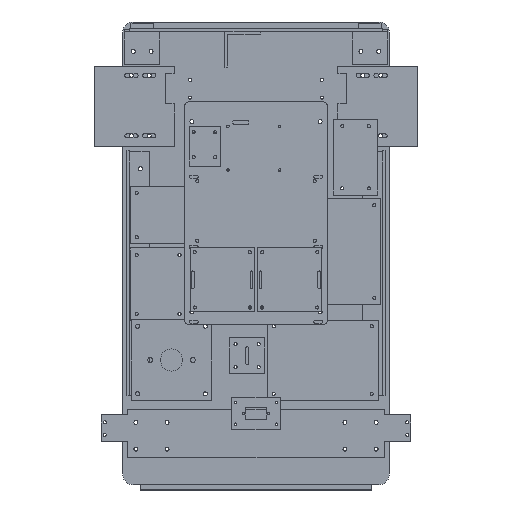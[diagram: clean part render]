
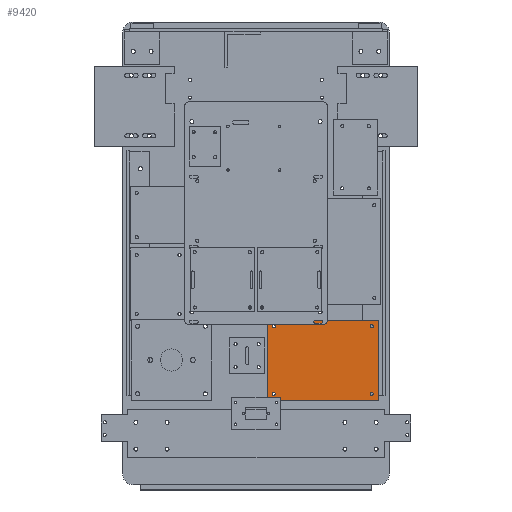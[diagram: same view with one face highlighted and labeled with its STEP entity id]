
A CAD part, top view. The second image highlights one B-rep face of the part: STEP entity #9420.
In plain terms, the highlighted planar face has unit normal (0, 0, 1).
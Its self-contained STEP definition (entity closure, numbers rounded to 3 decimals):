
#9231 = VERTEX_POINT('',#9232);
#9232 = CARTESIAN_POINT('',(12.5,95.,19.));
#9239 = PLANE('',#9240);
#9240 = AXIS2_PLACEMENT_3D('',#9241,#9242,#9243);
#9241 = CARTESIAN_POINT('',(12.5,95.,14.));
#9242 = DIRECTION('',(1.,0.,0.));
#9243 = DIRECTION('',(0.,0.,1.));
#9251 = PLANE('',#9252);
#9252 = AXIS2_PLACEMENT_3D('',#9253,#9254,#9255);
#9253 = CARTESIAN_POINT('',(12.5,95.,14.));
#9254 = DIRECTION('',(0.,1.,0.));
#9255 = DIRECTION('',(0.,0.,1.));
#9292 = VERTEX_POINT('',#9293);
#9293 = CARTESIAN_POINT('',(12.5,185.,19.));
#9307 = PLANE('',#9308);
#9308 = AXIS2_PLACEMENT_3D('',#9309,#9310,#9311);
#9309 = CARTESIAN_POINT('',(12.5,185.,14.));
#9310 = DIRECTION('',(0.,1.,0.));
#9311 = DIRECTION('',(0.,0.,1.));
#9319 = EDGE_CURVE('',#9231,#9292,#9320,.T.);
#9320 = SURFACE_CURVE('',#9321,(#9325,#9332),.PCURVE_S1.);
#9321 = LINE('',#9322,#9323);
#9322 = CARTESIAN_POINT('',(12.5,95.,19.));
#9323 = VECTOR('',#9324,1.);
#9324 = DIRECTION('',(0.,1.,0.));
#9325 = PCURVE('',#9239,#9326);
#9326 = DEFINITIONAL_REPRESENTATION('',(#9327),#9331);
#9327 = LINE('',#9328,#9329);
#9328 = CARTESIAN_POINT('',(5.,0.));
#9329 = VECTOR('',#9330,1.);
#9330 = DIRECTION('',(0.,-1.));
#9331 = ( GEOMETRIC_REPRESENTATION_CONTEXT(2) 
PARAMETRIC_REPRESENTATION_CONTEXT() REPRESENTATION_CONTEXT('2D SPACE',''
  ) );
#9332 = PCURVE('',#9333,#9338);
#9333 = PLANE('',#9334);
#9334 = AXIS2_PLACEMENT_3D('',#9335,#9336,#9337);
#9335 = CARTESIAN_POINT('',(12.5,95.,19.));
#9336 = DIRECTION('',(0.,0.,1.));
#9337 = DIRECTION('',(1.,0.,0.));
#9338 = DEFINITIONAL_REPRESENTATION('',(#9339),#9343);
#9339 = LINE('',#9340,#9341);
#9340 = CARTESIAN_POINT('',(0.,0.));
#9341 = VECTOR('',#9342,1.);
#9342 = DIRECTION('',(0.,1.));
#9343 = ( GEOMETRIC_REPRESENTATION_CONTEXT(2) 
PARAMETRIC_REPRESENTATION_CONTEXT() REPRESENTATION_CONTEXT('2D SPACE',''
  ) );
#9372 = EDGE_CURVE('',#9231,#9373,#9375,.T.);
#9373 = VERTEX_POINT('',#9374);
#9374 = CARTESIAN_POINT('',(137.5,95.,19.));
#9375 = SURFACE_CURVE('',#9376,(#9380,#9387),.PCURVE_S1.);
#9376 = LINE('',#9377,#9378);
#9377 = CARTESIAN_POINT('',(12.5,95.,19.));
#9378 = VECTOR('',#9379,1.);
#9379 = DIRECTION('',(1.,0.,0.));
#9380 = PCURVE('',#9251,#9381);
#9381 = DEFINITIONAL_REPRESENTATION('',(#9382),#9386);
#9382 = LINE('',#9383,#9384);
#9383 = CARTESIAN_POINT('',(5.,0.));
#9384 = VECTOR('',#9385,1.);
#9385 = DIRECTION('',(0.,1.));
#9386 = ( GEOMETRIC_REPRESENTATION_CONTEXT(2) 
PARAMETRIC_REPRESENTATION_CONTEXT() REPRESENTATION_CONTEXT('2D SPACE',''
  ) );
#9387 = PCURVE('',#9333,#9388);
#9388 = DEFINITIONAL_REPRESENTATION('',(#9389),#9393);
#9389 = LINE('',#9390,#9391);
#9390 = CARTESIAN_POINT('',(0.,0.));
#9391 = VECTOR('',#9392,1.);
#9392 = DIRECTION('',(1.,0.));
#9393 = ( GEOMETRIC_REPRESENTATION_CONTEXT(2) 
PARAMETRIC_REPRESENTATION_CONTEXT() REPRESENTATION_CONTEXT('2D SPACE',''
  ) );
#9409 = PLANE('',#9410);
#9410 = AXIS2_PLACEMENT_3D('',#9411,#9412,#9413);
#9411 = CARTESIAN_POINT('',(137.5,95.,14.));
#9412 = DIRECTION('',(1.,0.,0.));
#9413 = DIRECTION('',(0.,0.,1.));
#9420 = ADVANCED_FACE('',(#9421,#9469,#9500,#9531,#9562),#9333,.T.);
#9421 = FACE_BOUND('',#9422,.T.);
#9422 = EDGE_LOOP('',(#9423,#9424,#9425,#9448));
#9423 = ORIENTED_EDGE('',*,*,#9319,.F.);
#9424 = ORIENTED_EDGE('',*,*,#9372,.T.);
#9425 = ORIENTED_EDGE('',*,*,#9426,.T.);
#9426 = EDGE_CURVE('',#9373,#9427,#9429,.T.);
#9427 = VERTEX_POINT('',#9428);
#9428 = CARTESIAN_POINT('',(137.5,185.,19.));
#9429 = SURFACE_CURVE('',#9430,(#9434,#9441),.PCURVE_S1.);
#9430 = LINE('',#9431,#9432);
#9431 = CARTESIAN_POINT('',(137.5,95.,19.));
#9432 = VECTOR('',#9433,1.);
#9433 = DIRECTION('',(0.,1.,0.));
#9434 = PCURVE('',#9333,#9435);
#9435 = DEFINITIONAL_REPRESENTATION('',(#9436),#9440);
#9436 = LINE('',#9437,#9438);
#9437 = CARTESIAN_POINT('',(125.,0.));
#9438 = VECTOR('',#9439,1.);
#9439 = DIRECTION('',(0.,1.));
#9440 = ( GEOMETRIC_REPRESENTATION_CONTEXT(2) 
PARAMETRIC_REPRESENTATION_CONTEXT() REPRESENTATION_CONTEXT('2D SPACE',''
  ) );
#9441 = PCURVE('',#9409,#9442);
#9442 = DEFINITIONAL_REPRESENTATION('',(#9443),#9447);
#9443 = LINE('',#9444,#9445);
#9444 = CARTESIAN_POINT('',(5.,0.));
#9445 = VECTOR('',#9446,1.);
#9446 = DIRECTION('',(0.,-1.));
#9447 = ( GEOMETRIC_REPRESENTATION_CONTEXT(2) 
PARAMETRIC_REPRESENTATION_CONTEXT() REPRESENTATION_CONTEXT('2D SPACE',''
  ) );
#9448 = ORIENTED_EDGE('',*,*,#9449,.F.);
#9449 = EDGE_CURVE('',#9292,#9427,#9450,.T.);
#9450 = SURFACE_CURVE('',#9451,(#9455,#9462),.PCURVE_S1.);
#9451 = LINE('',#9452,#9453);
#9452 = CARTESIAN_POINT('',(12.5,185.,19.));
#9453 = VECTOR('',#9454,1.);
#9454 = DIRECTION('',(1.,0.,0.));
#9455 = PCURVE('',#9333,#9456);
#9456 = DEFINITIONAL_REPRESENTATION('',(#9457),#9461);
#9457 = LINE('',#9458,#9459);
#9458 = CARTESIAN_POINT('',(0.,90.));
#9459 = VECTOR('',#9460,1.);
#9460 = DIRECTION('',(1.,0.));
#9461 = ( GEOMETRIC_REPRESENTATION_CONTEXT(2) 
PARAMETRIC_REPRESENTATION_CONTEXT() REPRESENTATION_CONTEXT('2D SPACE',''
  ) );
#9462 = PCURVE('',#9307,#9463);
#9463 = DEFINITIONAL_REPRESENTATION('',(#9464),#9468);
#9464 = LINE('',#9465,#9466);
#9465 = CARTESIAN_POINT('',(5.,0.));
#9466 = VECTOR('',#9467,1.);
#9467 = DIRECTION('',(0.,1.));
#9468 = ( GEOMETRIC_REPRESENTATION_CONTEXT(2) 
PARAMETRIC_REPRESENTATION_CONTEXT() REPRESENTATION_CONTEXT('2D SPACE',''
  ) );
#9469 = FACE_BOUND('',#9470,.T.);
#9470 = EDGE_LOOP('',(#9471));
#9471 = ORIENTED_EDGE('',*,*,#9472,.F.);
#9472 = EDGE_CURVE('',#9473,#9473,#9475,.T.);
#9473 = VERTEX_POINT('',#9474);
#9474 = CARTESIAN_POINT('',(21.75,102.,19.));
#9475 = SURFACE_CURVE('',#9476,(#9481,#9488),.PCURVE_S1.);
#9476 = CIRCLE('',#9477,1.75);
#9477 = AXIS2_PLACEMENT_3D('',#9478,#9479,#9480);
#9478 = CARTESIAN_POINT('',(20.,102.,19.));
#9479 = DIRECTION('',(0.,0.,1.));
#9480 = DIRECTION('',(1.,0.,-0.));
#9481 = PCURVE('',#9333,#9482);
#9482 = DEFINITIONAL_REPRESENTATION('',(#9483),#9487);
#9483 = CIRCLE('',#9484,1.75);
#9484 = AXIS2_PLACEMENT_2D('',#9485,#9486);
#9485 = CARTESIAN_POINT('',(7.5,7.));
#9486 = DIRECTION('',(1.,0.));
#9487 = ( GEOMETRIC_REPRESENTATION_CONTEXT(2) 
PARAMETRIC_REPRESENTATION_CONTEXT() REPRESENTATION_CONTEXT('2D SPACE',''
  ) );
#9488 = PCURVE('',#9489,#9494);
#9489 = CYLINDRICAL_SURFACE('',#9490,1.75);
#9490 = AXIS2_PLACEMENT_3D('',#9491,#9492,#9493);
#9491 = CARTESIAN_POINT('',(20.,102.,13.));
#9492 = DIRECTION('',(0.,0.,1.));
#9493 = DIRECTION('',(1.,0.,-0.));
#9494 = DEFINITIONAL_REPRESENTATION('',(#9495),#9499);
#9495 = LINE('',#9496,#9497);
#9496 = CARTESIAN_POINT('',(0.,6.));
#9497 = VECTOR('',#9498,1.);
#9498 = DIRECTION('',(1.,0.));
#9499 = ( GEOMETRIC_REPRESENTATION_CONTEXT(2) 
PARAMETRIC_REPRESENTATION_CONTEXT() REPRESENTATION_CONTEXT('2D SPACE',''
  ) );
#9500 = FACE_BOUND('',#9501,.T.);
#9501 = EDGE_LOOP('',(#9502));
#9502 = ORIENTED_EDGE('',*,*,#9503,.F.);
#9503 = EDGE_CURVE('',#9504,#9504,#9506,.T.);
#9504 = VERTEX_POINT('',#9505);
#9505 = CARTESIAN_POINT('',(131.75,102.,19.));
#9506 = SURFACE_CURVE('',#9507,(#9512,#9519),.PCURVE_S1.);
#9507 = CIRCLE('',#9508,1.75);
#9508 = AXIS2_PLACEMENT_3D('',#9509,#9510,#9511);
#9509 = CARTESIAN_POINT('',(130.,102.,19.));
#9510 = DIRECTION('',(0.,0.,1.));
#9511 = DIRECTION('',(1.,0.,-0.));
#9512 = PCURVE('',#9333,#9513);
#9513 = DEFINITIONAL_REPRESENTATION('',(#9514),#9518);
#9514 = CIRCLE('',#9515,1.75);
#9515 = AXIS2_PLACEMENT_2D('',#9516,#9517);
#9516 = CARTESIAN_POINT('',(117.5,7.));
#9517 = DIRECTION('',(1.,0.));
#9518 = ( GEOMETRIC_REPRESENTATION_CONTEXT(2) 
PARAMETRIC_REPRESENTATION_CONTEXT() REPRESENTATION_CONTEXT('2D SPACE',''
  ) );
#9519 = PCURVE('',#9520,#9525);
#9520 = CYLINDRICAL_SURFACE('',#9521,1.75);
#9521 = AXIS2_PLACEMENT_3D('',#9522,#9523,#9524);
#9522 = CARTESIAN_POINT('',(130.,102.,13.));
#9523 = DIRECTION('',(0.,0.,1.));
#9524 = DIRECTION('',(1.,0.,-0.));
#9525 = DEFINITIONAL_REPRESENTATION('',(#9526),#9530);
#9526 = LINE('',#9527,#9528);
#9527 = CARTESIAN_POINT('',(0.,6.));
#9528 = VECTOR('',#9529,1.);
#9529 = DIRECTION('',(1.,0.));
#9530 = ( GEOMETRIC_REPRESENTATION_CONTEXT(2) 
PARAMETRIC_REPRESENTATION_CONTEXT() REPRESENTATION_CONTEXT('2D SPACE',''
  ) );
#9531 = FACE_BOUND('',#9532,.T.);
#9532 = EDGE_LOOP('',(#9533));
#9533 = ORIENTED_EDGE('',*,*,#9534,.F.);
#9534 = EDGE_CURVE('',#9535,#9535,#9537,.T.);
#9535 = VERTEX_POINT('',#9536);
#9536 = CARTESIAN_POINT('',(21.75,178.,19.));
#9537 = SURFACE_CURVE('',#9538,(#9543,#9550),.PCURVE_S1.);
#9538 = CIRCLE('',#9539,1.75);
#9539 = AXIS2_PLACEMENT_3D('',#9540,#9541,#9542);
#9540 = CARTESIAN_POINT('',(20.,178.,19.));
#9541 = DIRECTION('',(0.,0.,1.));
#9542 = DIRECTION('',(1.,0.,-0.));
#9543 = PCURVE('',#9333,#9544);
#9544 = DEFINITIONAL_REPRESENTATION('',(#9545),#9549);
#9545 = CIRCLE('',#9546,1.75);
#9546 = AXIS2_PLACEMENT_2D('',#9547,#9548);
#9547 = CARTESIAN_POINT('',(7.5,83.));
#9548 = DIRECTION('',(1.,0.));
#9549 = ( GEOMETRIC_REPRESENTATION_CONTEXT(2) 
PARAMETRIC_REPRESENTATION_CONTEXT() REPRESENTATION_CONTEXT('2D SPACE',''
  ) );
#9550 = PCURVE('',#9551,#9556);
#9551 = CYLINDRICAL_SURFACE('',#9552,1.75);
#9552 = AXIS2_PLACEMENT_3D('',#9553,#9554,#9555);
#9553 = CARTESIAN_POINT('',(20.,178.,13.));
#9554 = DIRECTION('',(0.,0.,1.));
#9555 = DIRECTION('',(1.,0.,-0.));
#9556 = DEFINITIONAL_REPRESENTATION('',(#9557),#9561);
#9557 = LINE('',#9558,#9559);
#9558 = CARTESIAN_POINT('',(0.,6.));
#9559 = VECTOR('',#9560,1.);
#9560 = DIRECTION('',(1.,0.));
#9561 = ( GEOMETRIC_REPRESENTATION_CONTEXT(2) 
PARAMETRIC_REPRESENTATION_CONTEXT() REPRESENTATION_CONTEXT('2D SPACE',''
  ) );
#9562 = FACE_BOUND('',#9563,.T.);
#9563 = EDGE_LOOP('',(#9564));
#9564 = ORIENTED_EDGE('',*,*,#9565,.F.);
#9565 = EDGE_CURVE('',#9566,#9566,#9568,.T.);
#9566 = VERTEX_POINT('',#9567);
#9567 = CARTESIAN_POINT('',(131.75,178.,19.));
#9568 = SURFACE_CURVE('',#9569,(#9574,#9581),.PCURVE_S1.);
#9569 = CIRCLE('',#9570,1.75);
#9570 = AXIS2_PLACEMENT_3D('',#9571,#9572,#9573);
#9571 = CARTESIAN_POINT('',(130.,178.,19.));
#9572 = DIRECTION('',(0.,0.,1.));
#9573 = DIRECTION('',(1.,0.,-0.));
#9574 = PCURVE('',#9333,#9575);
#9575 = DEFINITIONAL_REPRESENTATION('',(#9576),#9580);
#9576 = CIRCLE('',#9577,1.75);
#9577 = AXIS2_PLACEMENT_2D('',#9578,#9579);
#9578 = CARTESIAN_POINT('',(117.5,83.));
#9579 = DIRECTION('',(1.,0.));
#9580 = ( GEOMETRIC_REPRESENTATION_CONTEXT(2) 
PARAMETRIC_REPRESENTATION_CONTEXT() REPRESENTATION_CONTEXT('2D SPACE',''
  ) );
#9581 = PCURVE('',#9582,#9587);
#9582 = CYLINDRICAL_SURFACE('',#9583,1.75);
#9583 = AXIS2_PLACEMENT_3D('',#9584,#9585,#9586);
#9584 = CARTESIAN_POINT('',(130.,178.,13.));
#9585 = DIRECTION('',(0.,0.,1.));
#9586 = DIRECTION('',(1.,0.,-0.));
#9587 = DEFINITIONAL_REPRESENTATION('',(#9588),#9592);
#9588 = LINE('',#9589,#9590);
#9589 = CARTESIAN_POINT('',(0.,6.));
#9590 = VECTOR('',#9591,1.);
#9591 = DIRECTION('',(1.,0.));
#9592 = ( GEOMETRIC_REPRESENTATION_CONTEXT(2) 
PARAMETRIC_REPRESENTATION_CONTEXT() REPRESENTATION_CONTEXT('2D SPACE',''
  ) );
